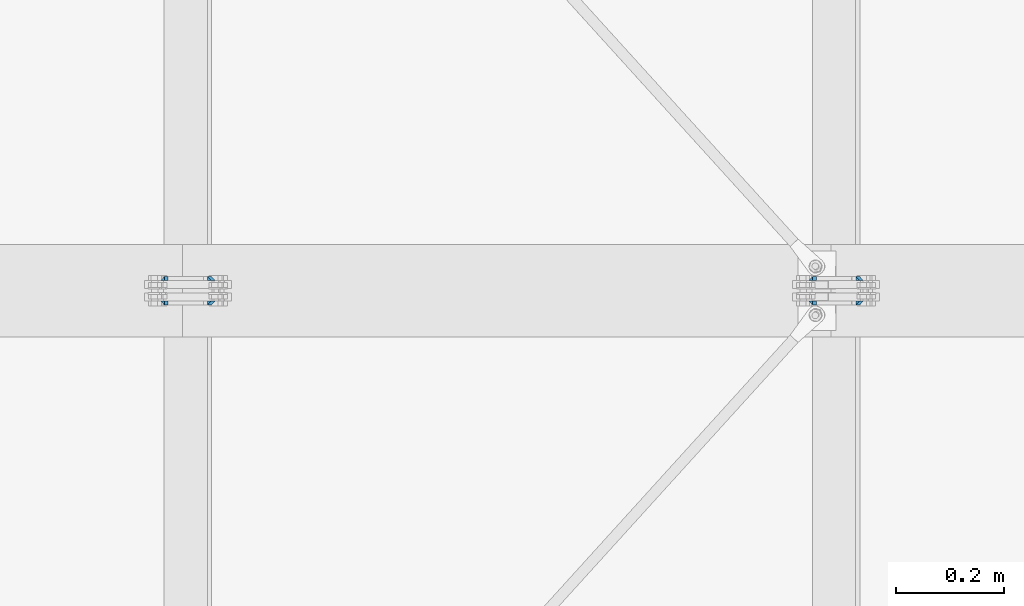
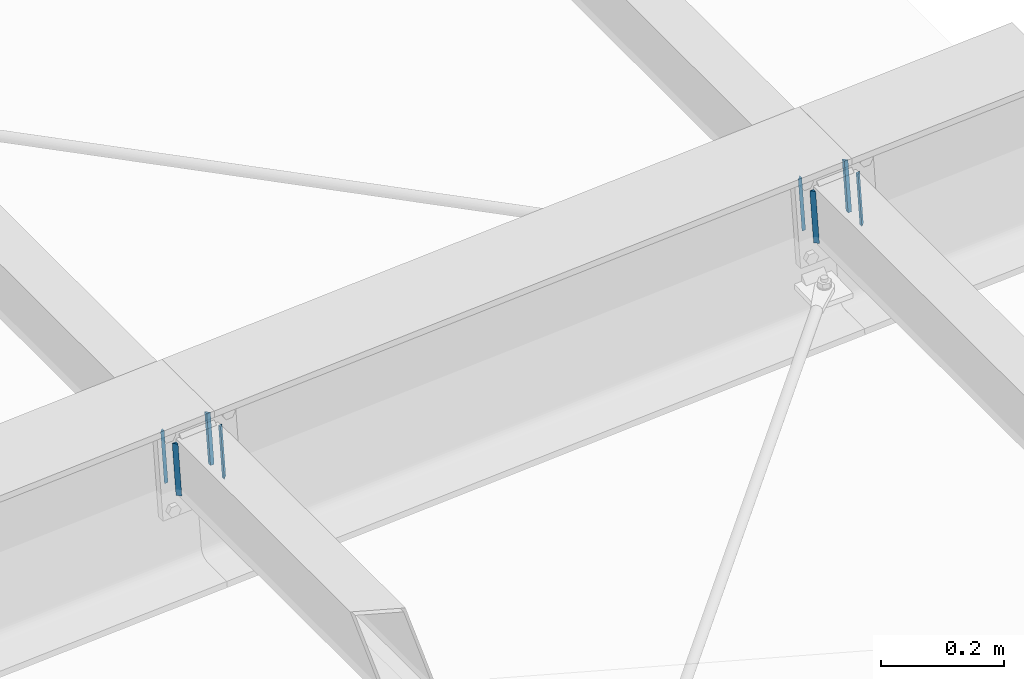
# One storey, part 18 of 72: 16 fasteners.
"""IFC4 building model written with IfcOpenShell, lengths in metres."""

from ifc_helpers import new_model, si_unit, frame, origin_with_axes, place, context, project, spatial, polyline, outline, extrude, type_object, element, save


model = new_model("IFC4")

# Units and contexts
model_context = context("Model", 3, precision=1e-05, world=origin_with_axes())
ifc_project = project(units=[si_unit("LENGTHUNIT", "METRE"), si_unit("AREAUNIT", "SQUARE_METRE"), si_unit("VOLUMEUNIT", "CUBIC_METRE"), si_unit("MASSUNIT", "GRAM", prefix="KILO"), si_unit("TIMEUNIT", "SECOND"), si_unit("PLANEANGLEUNIT", "RADIAN"), si_unit("SOLIDANGLEUNIT", "STERADIAN"), si_unit("THERMODYNAMICTEMPERATUREUNIT", "DEGREE_CELSIUS")], contexts=[model_context])

# Site, building, storey
placement_1 = place(None, origin_with_axes())
site = spatial("IfcSite", under=ifc_project, at=placement_1, Name="Italia", CompositionType="ELEMENT")
building = spatial("IfcBuilding", under=site, at=placement_1, Name="Pensilina", CompositionType="ELEMENT")
storey = spatial("IfcBuildingStorey", under=building, at=placement_1, Name="Storey 0", CompositionType="ELEMENT", Elevation=0.0)

# Fasteners
fastener_type_1 = type_object("IfcFastenerType", Name="Collegamento 0503_0502", PredefinedType="WELD")
placement_2 = place(placement_1, origin_with_axes())
fastener_1_placement = place(placement_2, origin_with_axes())
element("IfcFastener", 1, at=fastener_1_placement, inside=storey, type_object=fastener_type_1, Name="Collegamento 0503_0502", context=model_context, shape_type="SweptSolid", body=[
    extrude(outline(polyline([(0.0, 0.0, 0.0), (-0.00717354, 0.00695801, 0.0), (0.0, 0.00695801, 0.0), (0.0, 0.0, 0.0)])), frame((4.56223, 10.5411, 3.9931), z_axis=(0.067318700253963, 0.0, -0.997731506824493), x_axis=(0.0, 1.0, 0.0)), (0.0, 0.0, 1.0), 0.1061),
])
fastener_type_2 = type_object("IfcFastenerType", Name="Collegamento 0503_0502", PredefinedType="WELD")
fastener_2_placement = place(placement_2, origin_with_axes())
element("IfcFastener", 2, at=fastener_2_placement, inside=storey, type_object=fastener_type_2, Name="Collegamento 0503_0502", context=model_context, shape_type="SweptSolid", body=[
    extrude(outline(polyline([(0.0, 0.0, 0.0), (0.00717354, -0.00695801, 0.0), (0.0, -0.00695801, 0.0), (0.0, 0.0, 0.0)])), frame((4.66298, 10.5411, 3.89356), z_axis=(-0.067318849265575, 0.0, 0.997731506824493), x_axis=(0.0, -1.0, 0.0)), (0.0, 0.0, 1.0), 0.1061),
])
fastener_type_3 = type_object("IfcFastenerType", Name="Collegamento 0503_0502", PredefinedType="WELD")
fastener_3_placement = place(placement_2, origin_with_axes())
element("IfcFastener", 3, at=fastener_3_placement, inside=storey, type_object=fastener_type_3, Name="Collegamento 0503_0502", context=model_context, shape_type="SweptSolid", body=[
    extrude(outline(polyline([(0.0, 0.0, 0.0), (-0.00717354, 0.00695801, 0.0), (0.0, 0.00695801, 0.0), (0.0, 0.0, 0.0)])), frame((4.56223, 10.5411, 3.9931), z_axis=(0.067318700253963, 0.0, -0.997731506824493), x_axis=(0.0, 1.0, 0.0)), (0.0, 0.0, 1.0), 0.1061),
])
fastener_type_4 = type_object("IfcFastenerType", Name="Collegamento 0503_0502", PredefinedType="WELD")
fastener_4_placement = place(placement_2, origin_with_axes())
element("IfcFastener", 4, at=fastener_4_placement, inside=storey, type_object=fastener_type_4, Name="Collegamento 0503_0502", context=model_context, shape_type="SweptSolid", body=[
    extrude(outline(polyline([(0.0, 0.0, 0.0), (0.00717354, -0.00695801, 0.0), (0.0, -0.00695801, 0.0), (0.0, 0.0, 0.0)])), frame((4.66298, 10.5411, 3.89356), z_axis=(-0.067318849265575, 0.0, 0.997731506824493), x_axis=(0.0, -1.0, 0.0)), (0.0, 0.0, 1.0), 0.1061),
])
fastener_type_5 = type_object("IfcFastenerType", Name="Collegamento 0503_0504", PredefinedType="WELD")
fastener_5_placement = place(placement_2, origin_with_axes())
element("IfcFastener", 5, at=fastener_5_placement, inside=storey, type_object=fastener_type_5, Name="Collegamento 0503_0504", context=model_context, shape_type="SweptSolid", body=[
    extrude(outline(polyline([(0.0, 0.0, 0.0), (-0.00717354, 0.00695801, 0.0), (0.0, 0.00695801, 0.0), (0.0, 0.0, 0.0)])), frame((4.56938, 10.5789, 3.88724), z_axis=(-0.067318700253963, 0.0, 0.997731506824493), x_axis=(0.0, -1.0, 0.0)), (0.0, 0.0, 1.0), 0.1061),
])
fastener_type_6 = type_object("IfcFastenerType", Name="Collegamento 0503_0504", PredefinedType="WELD")
fastener_6_placement = place(placement_2, origin_with_axes())
element("IfcFastener", 6, at=fastener_6_placement, inside=storey, type_object=fastener_type_6, Name="Collegamento 0503_0504", context=model_context, shape_type="SweptSolid", body=[
    extrude(outline(polyline([(0.0, 0.0, 0.0), (0.00717354, -0.00695801, 0.0), (0.0, -0.00695801, 0.0), (0.0, 0.0, 0.0)])), frame((4.65584, 10.5789, 3.99942), z_axis=(0.067318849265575, 0.0, -0.997731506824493), x_axis=(0.0, 1.0, 0.0)), (0.0, 0.0, 1.0), 0.1061),
])
fastener_type_7 = type_object("IfcFastenerType", Name="Collegamento 0503_0504", PredefinedType="WELD")
fastener_7_placement = place(placement_2, origin_with_axes())
element("IfcFastener", 7, at=fastener_7_placement, inside=storey, type_object=fastener_type_7, Name="Collegamento 0503_0504", context=model_context, shape_type="SweptSolid", body=[
    extrude(outline(polyline([(0.0, 0.0, 0.0), (-0.00717354, 0.00695801, 0.0), (0.0, 0.00695801, 0.0), (0.0, 0.0, 0.0)])), frame((4.56938, 10.5789, 3.88724), z_axis=(-0.067318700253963, 0.0, 0.997731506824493), x_axis=(0.0, -1.0, 0.0)), (0.0, 0.0, 1.0), 0.1061),
])
fastener_type_8 = type_object("IfcFastenerType", Name="Collegamento 0503_0504", PredefinedType="WELD")
fastener_8_placement = place(placement_2, origin_with_axes())
element("IfcFastener", 8, at=fastener_8_placement, inside=storey, type_object=fastener_type_8, Name="Collegamento 0503_0504", context=model_context, shape_type="SweptSolid", body=[
    extrude(outline(polyline([(0.0, 0.0, 0.0), (0.00717354, -0.00695801, 0.0), (0.0, -0.00695801, 0.0), (0.0, 0.0, 0.0)])), frame((4.65584, 10.5789, 3.99942), z_axis=(0.067318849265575, 0.0, -0.997731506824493), x_axis=(0.0, 1.0, 0.0)), (0.0, 0.0, 1.0), 0.1061),
])
fastener_type_9 = type_object("IfcFastenerType", Name="Collegamento 0603_0602", PredefinedType="WELD")
fastener_9_placement = place(placement_2, origin_with_axes())
element("IfcFastener", 9, at=fastener_9_placement, inside=storey, type_object=fastener_type_9, Name="Collegamento 0603_0602", context=model_context, shape_type="SweptSolid", body=[
    extrude(outline(polyline([(0.0, 0.0, 0.0), (-0.00717354, 0.00695801, 0.0), (0.0, 0.00695801, 0.0), (0.0, 0.0, 0.0)])), frame((5.75944, 10.5411, 4.07535), z_axis=(0.067314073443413, 0.0, -0.997731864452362), x_axis=(0.0, 1.0, 0.0)), (0.0, 0.0, 1.0), 0.106101),
])
fastener_type_10 = type_object("IfcFastenerType", Name="Collegamento 0603_0602", PredefinedType="WELD")
fastener_10_placement = place(placement_2, origin_with_axes())
element("IfcFastener", 10, at=fastener_10_placement, inside=storey, type_object=fastener_type_10, Name="Collegamento 0603_0602", context=model_context, shape_type="SweptSolid", body=[
    extrude(outline(polyline([(0.0, 0.0, 0.0), (0.00717354, -0.00695801, 0.0), (0.0, -0.00695801, 0.0), (0.0, 0.0, 0.0)])), frame((5.86019, 10.5411, 3.97581), z_axis=(-0.067318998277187, 0.0, 0.997731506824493), x_axis=(0.0, -1.0, 0.0)), (0.0, 0.0, 1.0), 0.1061),
])
fastener_type_11 = type_object("IfcFastenerType", Name="Collegamento 0603_0602", PredefinedType="WELD")
fastener_11_placement = place(placement_2, origin_with_axes())
element("IfcFastener", 11, at=fastener_11_placement, inside=storey, type_object=fastener_type_11, Name="Collegamento 0603_0602", context=model_context, shape_type="SweptSolid", body=[
    extrude(outline(polyline([(0.0, 0.0, 0.0), (-0.00717354, 0.00695801, 0.0), (0.0, 0.00695801, 0.0), (0.0, 0.0, 0.0)])), frame((5.75944, 10.5411, 4.07535), z_axis=(0.067314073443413, 0.0, -0.997731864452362), x_axis=(0.0, 1.0, 0.0)), (0.0, 0.0, 1.0), 0.106101),
])
fastener_type_12 = type_object("IfcFastenerType", Name="Collegamento 0603_0602", PredefinedType="WELD")
fastener_12_placement = place(placement_2, origin_with_axes())
element("IfcFastener", 12, at=fastener_12_placement, inside=storey, type_object=fastener_type_12, Name="Collegamento 0603_0602", context=model_context, shape_type="SweptSolid", body=[
    extrude(outline(polyline([(0.0, 0.0, 0.0), (0.00717354, -0.00695801, 0.0), (0.0, -0.00695801, 0.0), (0.0, 0.0, 0.0)])), frame((5.86019, 10.5411, 3.97581), z_axis=(-0.067318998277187, 0.0, 0.997731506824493), x_axis=(0.0, -1.0, 0.0)), (0.0, 0.0, 1.0), 0.1061),
])
fastener_type_13 = type_object("IfcFastenerType", Name="Collegamento 0603_0604", PredefinedType="WELD")
fastener_13_placement = place(placement_2, origin_with_axes())
element("IfcFastener", 13, at=fastener_13_placement, inside=storey, type_object=fastener_type_13, Name="Collegamento 0603_0604", context=model_context, shape_type="SweptSolid", body=[
    extrude(outline(polyline([(0.0, 0.0, 0.0), (-0.00717354, 0.00695801, 0.0), (0.0, 0.00695801, 0.0), (0.0, 0.0, 0.0)])), frame((5.76658, 10.5789, 3.96949), z_axis=(-0.067314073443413, 0.0, 0.997731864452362), x_axis=(0.0, -1.0, 0.0)), (0.0, 0.0, 1.0), 0.106101),
])
fastener_type_14 = type_object("IfcFastenerType", Name="Collegamento 0603_0604", PredefinedType="WELD")
fastener_14_placement = place(placement_2, origin_with_axes())
element("IfcFastener", 14, at=fastener_14_placement, inside=storey, type_object=fastener_type_14, Name="Collegamento 0603_0604", context=model_context, shape_type="SweptSolid", body=[
    extrude(outline(polyline([(0.0, 0.0, 0.0), (0.00717354, -0.00695801, 0.0), (0.0, -0.00695801, 0.0), (0.0, 0.0, 0.0)])), frame((5.85304, 10.5789, 4.08167), z_axis=(0.067318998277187, 0.0, -0.997731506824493), x_axis=(0.0, 1.0, 0.0)), (0.0, 0.0, 1.0), 0.1061),
])
fastener_type_15 = type_object("IfcFastenerType", Name="Collegamento 0603_0604", PredefinedType="WELD")
fastener_15_placement = place(placement_2, origin_with_axes())
element("IfcFastener", 15, at=fastener_15_placement, inside=storey, type_object=fastener_type_15, Name="Collegamento 0603_0604", context=model_context, shape_type="SweptSolid", body=[
    extrude(outline(polyline([(0.0, 0.0, 0.0), (-0.00717354, 0.00695801, 0.0), (0.0, 0.00695801, 0.0), (0.0, 0.0, 0.0)])), frame((5.76658, 10.5789, 3.96949), z_axis=(-0.067314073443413, 0.0, 0.997731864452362), x_axis=(0.0, -1.0, 0.0)), (0.0, 0.0, 1.0), 0.106101),
])
fastener_type_16 = type_object("IfcFastenerType", Name="Collegamento 0603_0604", PredefinedType="WELD")
fastener_16_placement = place(placement_2, origin_with_axes())
element("IfcFastener", 16, at=fastener_16_placement, inside=storey, type_object=fastener_type_16, Name="Collegamento 0603_0604", context=model_context, shape_type="SweptSolid", body=[
    extrude(outline(polyline([(0.0, 0.0, 0.0), (0.00717354, -0.00695801, 0.0), (0.0, -0.00695801, 0.0), (0.0, 0.0, 0.0)])), frame((5.85304, 10.5789, 4.08167), z_axis=(0.067318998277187, 0.0, -0.997731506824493), x_axis=(0.0, 1.0, 0.0)), (0.0, 0.0, 1.0), 0.1061),
])

save(model, "model.ifc")
